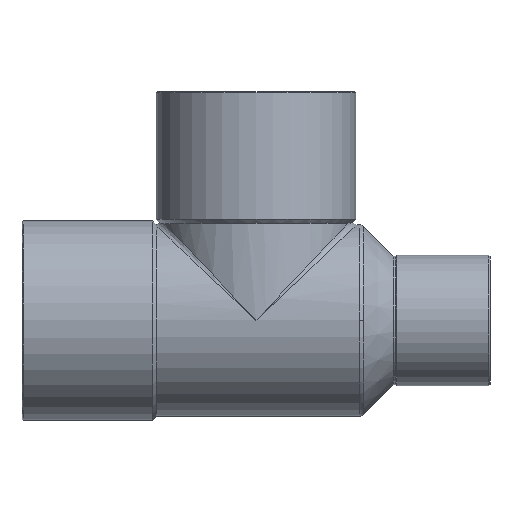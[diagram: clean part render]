
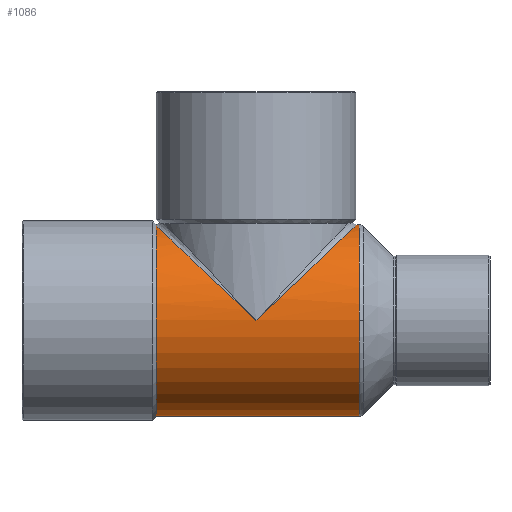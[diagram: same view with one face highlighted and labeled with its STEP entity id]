
A CAD part, top view. The second image highlights one B-rep face of the part: STEP entity #1086.
In plain terms, the highlighted cylindrical face has radius 18 mm (diameter 36 mm), a partial arc.
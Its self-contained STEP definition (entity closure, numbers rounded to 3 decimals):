
#354=CARTESIAN_POINT('',(-18.728,-18.,0.));
#355=VERTEX_POINT('',#354);
#362=CARTESIAN_POINT('',(-18.728,17.742,3.035));
#363=VERTEX_POINT('',#362);
#364=CARTESIAN_POINT('',(-18.728,0.0,0.0));
#365=DIRECTION('',(1.0,0.0,0.0));
#366=DIRECTION('',(0.0,1.0,0.0));
#367=AXIS2_PLACEMENT_3D('',#364,#365,#366);
#368=CIRCLE('',#367,18.);
#369=EDGE_CURVE('',#363,#355,#368,.T.);
#524=CARTESIAN_POINT('',(19.444,18.0,0.0));
#525=VERTEX_POINT('',#524);
#533=CARTESIAN_POINT('',(19.444,0.,18.0));
#534=VERTEX_POINT('',#533);
#535=CARTESIAN_POINT('',(19.444,0.0,0.0));
#536=DIRECTION('',(1.0,0.0,0.0));
#537=DIRECTION('',(0.0,-1.0,0.0));
#538=AXIS2_PLACEMENT_3D('',#535,#536,#537);
#539=CIRCLE('',#538,18.0);
#540=EDGE_CURVE('',#525,#534,#539,.T.);
#1038=CARTESIAN_POINT('',(0.565,0.0,0.0));
#1039=DIRECTION('',(1.0,0.0,0.0));
#1040=DIRECTION('',(0.0,1.0,0.0));
#1041=AXIS2_PLACEMENT_3D('',#1038,#1039,#1040);
#1042=CYLINDRICAL_SURFACE('',#1041,18.0);
#1043=CARTESIAN_POINT('',(19.0,18.0,0.));
#1044=VERTEX_POINT('',#1043);
#1045=CARTESIAN_POINT('',(19.0,18.0,0.));
#1046=DIRECTION('',(1.0,0.0,0.0));
#1047=VECTOR('',#1046,0.444);
#1048=LINE('',#1045,#1047);
#1049=EDGE_CURVE('',#1044,#525,#1048,.T.);
#1050=ORIENTED_EDGE('',*,*,#1049,.F.);
#1051=CARTESIAN_POINT('',(0.0,0.0,18.0));
#1052=VERTEX_POINT('',#1051);
#1053=CARTESIAN_POINT('',(0.0,0.0,0.0));
#1054=DIRECTION('',(-0.688,0.726,0.));
#1055=DIRECTION('',(0.726,0.688,0.0));
#1056=AXIS2_PLACEMENT_3D('',#1053,#1054,#1055);
#1057=ELLIPSE('',#1056,26.173,18.0);
#1058=EDGE_CURVE('',#1052,#1044,#1057,.T.);
#1059=ORIENTED_EDGE('',*,*,#1058,.F.);
#1060=CARTESIAN_POINT('',(0.0,0.0,0.0));
#1061=DIRECTION('',(0.688,0.726,0.));
#1062=DIRECTION('',(-0.726,0.688,0.0));
#1063=AXIS2_PLACEMENT_3D('',#1060,#1061,#1062);
#1064=ELLIPSE('',#1063,26.173,18.0);
#1065=EDGE_CURVE('',#363,#1052,#1064,.T.);
#1066=ORIENTED_EDGE('',*,*,#1065,.F.);
#1067=ORIENTED_EDGE('',*,*,#369,.T.);
#1068=CARTESIAN_POINT('',(19.444,-18.0,0.));
#1069=VERTEX_POINT('',#1068);
#1070=CARTESIAN_POINT('',(19.444,-18.0,0.));
#1071=DIRECTION('',(-1.0,0.0,0.0));
#1072=VECTOR('',#1071,38.172);
#1073=LINE('',#1070,#1072);
#1074=EDGE_CURVE('',#1069,#355,#1073,.T.);
#1075=ORIENTED_EDGE('',*,*,#1074,.F.);
#1076=CARTESIAN_POINT('',(19.444,0.0,0.0));
#1077=DIRECTION('',(1.0,0.0,0.0));
#1078=DIRECTION('',(0.0,-1.0,0.0));
#1079=AXIS2_PLACEMENT_3D('',#1076,#1077,#1078);
#1080=CIRCLE('',#1079,18.0);
#1081=EDGE_CURVE('',#534,#1069,#1080,.T.);
#1082=ORIENTED_EDGE('',*,*,#1081,.F.);
#1083=ORIENTED_EDGE('',*,*,#540,.F.);
#1084=EDGE_LOOP('',(#1050,#1059,#1066,#1067,#1075,#1082,#1083));
#1085=FACE_OUTER_BOUND('',#1084,.T.);
#1086=ADVANCED_FACE('',(#1085),#1042,.T.);
